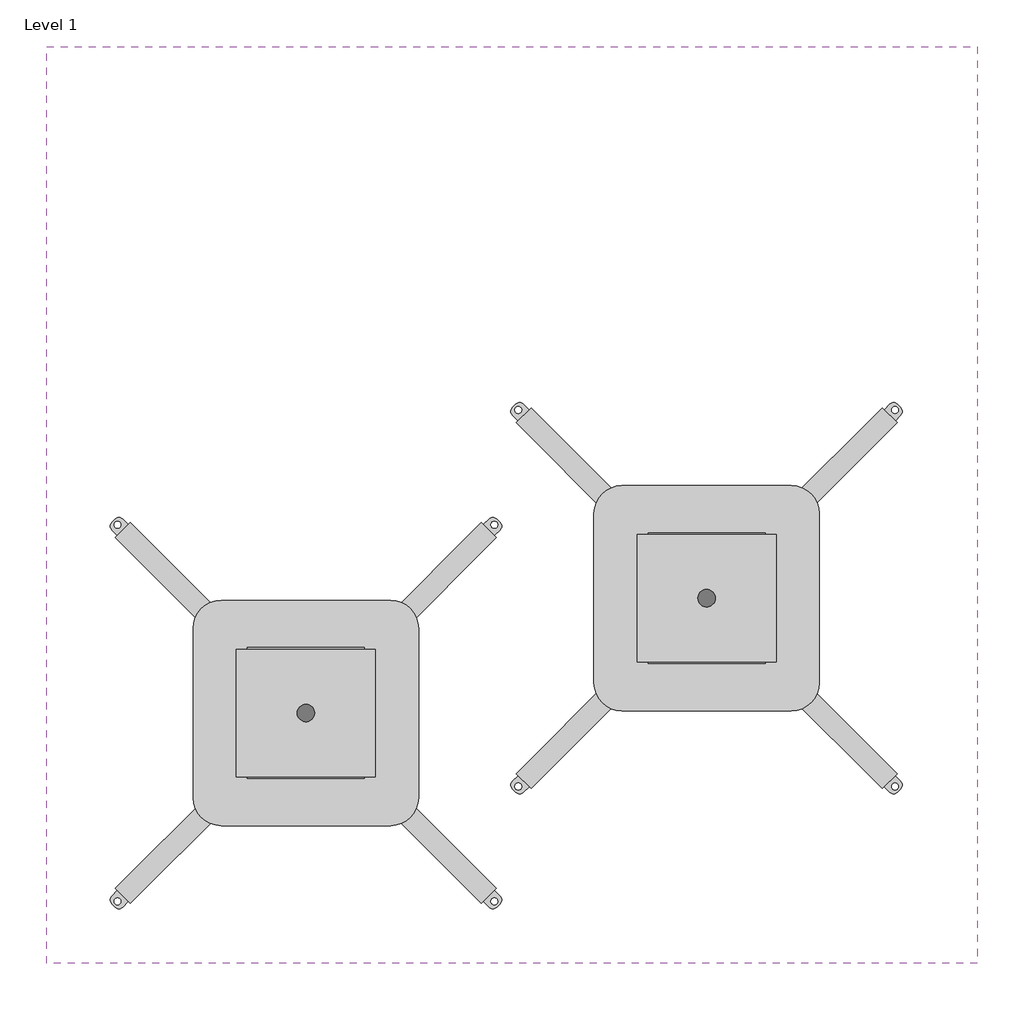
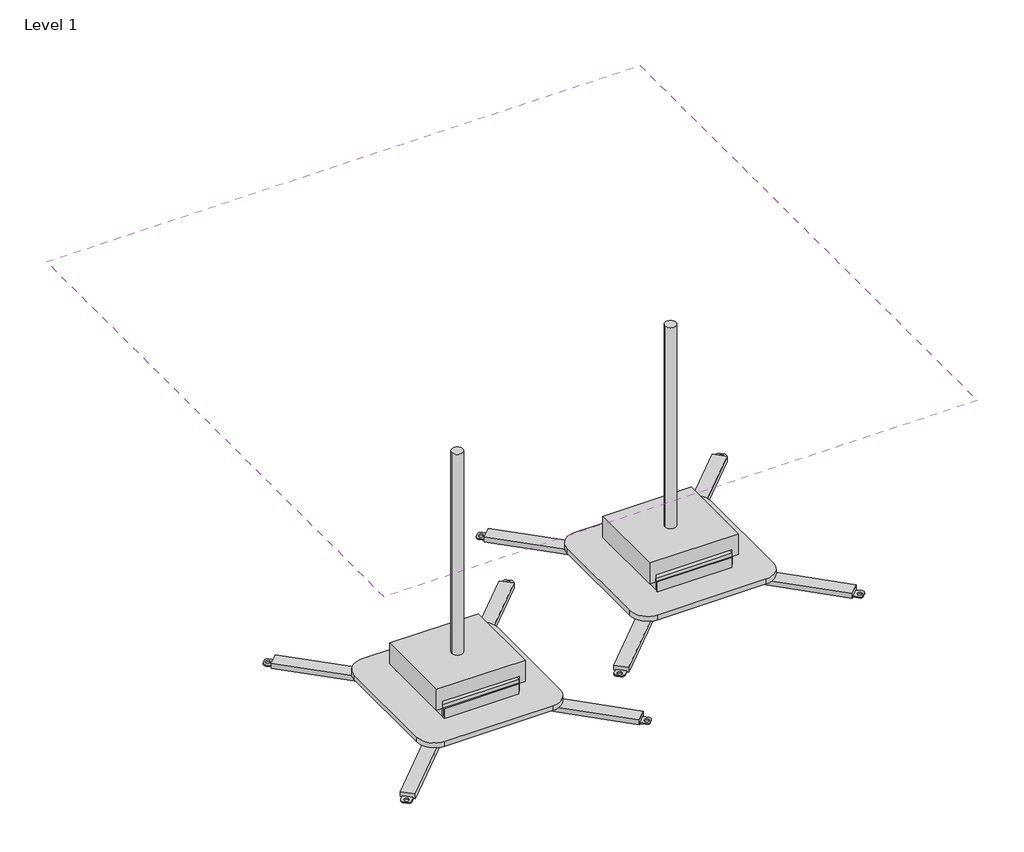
# One storey: 2 proxies, 1 covering.
"""IFC4 building model written with IfcOpenShell, lengths in millimetres."""

from ifc_helpers import new_model, si_unit, frame, origin, place, context, project, spatial, polyline, outline, extrude, transform, mapped, element, save
from components import black_3213ff2a

model = new_model("IFC4")

# Units and contexts
model_context = context("Model", 3, world=origin())
ifc_project = project(units=[si_unit("LENGTHUNIT", "METRE", prefix="MILLI")], contexts=[model_context])

# Site, building, storey
site = spatial("IfcSite", under=ifc_project)
building = spatial("IfcBuilding", under=site)
storey = spatial("IfcBuildingStorey", under=building, Name="Level 1", Elevation=0.0)

# Proxies
placement = place(None, origin())
black_shape = black_3213ff2a(model_context)
element("IfcBuildingElementProxy", 1, Name="Projector_Mount-Chief-Ceiling-Large_Venue : Black", ObjectType="Projector_Mount-Chief-Ceiling-Large_Venue : Black", at=placement, inside=storey, context=model_context, shape_type="MappedRepresentation", body=[
    mapped(black_shape, transform((1628.3068327, 1650.4360191, 1524.0), x_axis=(1.0, 0.0, 0.0), y_axis=(0.0, -1.0, 0.0), z_axis=(0.0, 0.0, -1.0))),
])
element("IfcBuildingElementProxy", 2, Name="Projector_Mount-Chief-Ceiling-Large_Venue : White", ObjectType="Projector_Mount-Chief-Ceiling-Large_Venue : White", at=placement, inside=storey, context=model_context, shape_type="MappedRepresentation", body=[
    mapped(black_shape, transform((2360.788245, 1860.4716842, 1524.0), x_axis=(1.0, 0.0, 0.0), y_axis=(0.0, -1.0, 0.0), z_axis=(0.0, 0.0, -1.0))),
])

# Covering
element("IfcCovering", 3, ObjectType="2' x 4' ACT System", at=placement, inside=storey, context=model_context, shape_type="SweptSolid", body=[
    extrude(outline(polyline([(2855.9454013, 2869.4154734), (2855.9454013, 1193.0154734), (1154.1454013, 1193.0154734), (1154.1454013, 2869.4154734), (2855.9454013, 2869.4154734)])), frame((0.0, 0.0, 1524.0), z_axis=(0.0, 0.0, 1.0), x_axis=(1.0, 0.0, 0.0)), (0.0, 0.0, 1.0), 57.15),
])

save(model, "model.ifc")
